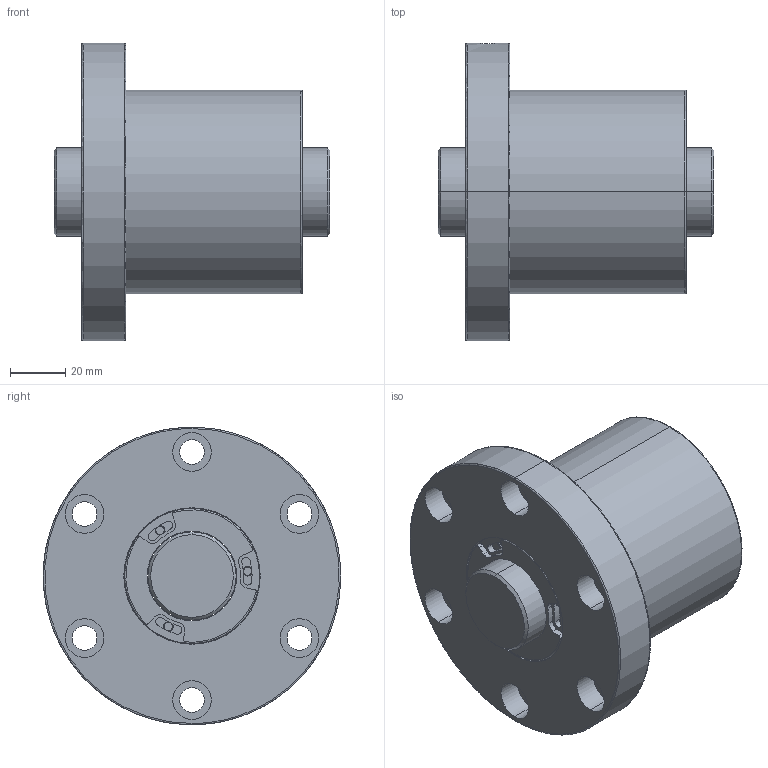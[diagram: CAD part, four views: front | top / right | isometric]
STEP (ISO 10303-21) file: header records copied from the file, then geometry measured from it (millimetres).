
FILE_DESCRIPTION (( 'STEP AP203' ), '1' );
FILE_NAME ('SFVSR03220B1N-C.STEP', '2020-06-17T05:32:21', ( '' ), ( '' ), 'SwSTEP 2.0', 'SolidWorks 2013', '' );
FILE_SCHEMA (( 'CONFIG_CONTROL_DESIGN' ));
Length unit declared in the file: millimetre
Products named in the file (1): SFVSR03220B1N-C
Bounding box: 100 x 108 x 108 mm (x, y, z)
Volume: 419289.1 mm3; surface area: 64251.6 mm2
Topology: 2 solids, 2 shells, 249 faces, 608 edges, 389 vertices
Faces by surface type: cylinder 144, plane 75, cone 16, bspline 14
Entity records: 8203 total; most frequent: CARTESIAN_POINT 2018, DIRECTION 1416, ORIENTED_EDGE 1216, EDGE_CURVE 608, AXIS2_PLACEMENT_3D 605, VERTEX_POINT 389, CIRCLE 369, EDGE_LOOP 291
